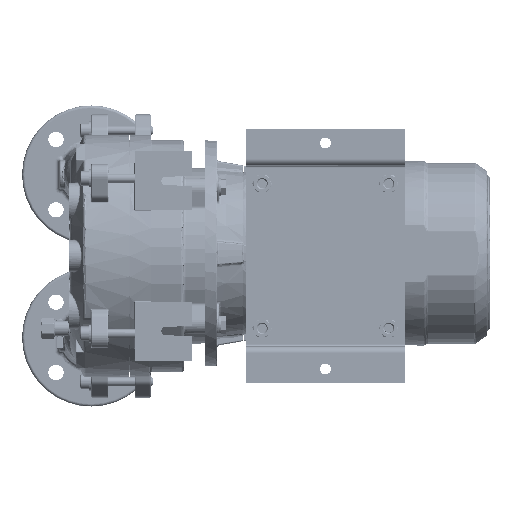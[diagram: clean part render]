
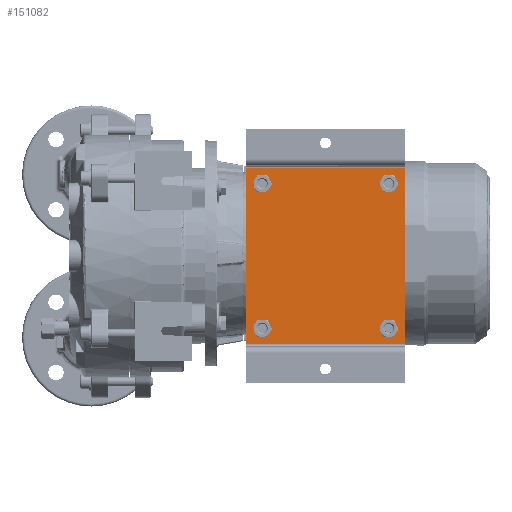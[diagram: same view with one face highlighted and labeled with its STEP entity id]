
A CAD part, front view. The second image highlights one B-rep face of the part: STEP entity #151082.
In plain terms, the highlighted planar face has unit normal (0, -1, 0).
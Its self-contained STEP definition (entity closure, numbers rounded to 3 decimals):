
#2169 = CARTESIAN_POINT ( 'NONE',  ( 296.869, 190.708, 256.745 ) ) ;
#2310 = EDGE_CURVE ( 'NONE', #97581, #25317, #271850, .T. ) ;
#5818 = DIRECTION ( 'NONE',  ( 0., 1., 0. ) ) ;
#5817 = DIRECTION ( 'NONE',  ( 0., 0., -1. ) ) ;
#7146 = CIRCLE ( 'NONE', #34731, 6. ) ;
#9758 = VERTEX_POINT ( 'NONE', #104612 ) ;
#14850 = FACE_BOUND ( 'NONE', #186720, .T. ) ;
#16880 = DIRECTION ( 'NONE',  ( 0., 1., 0. ) ) ;
#21985 = EDGE_CURVE ( 'NONE', #131886, #241626, #145126, .T. ) ;
#22501 = DIRECTION ( 'NONE',  ( -1., 0., 0. ) ) ;
#25195 = AXIS2_PLACEMENT_3D ( 'NONE', #147065, #235103, #210592 ) ;
#25317 = VERTEX_POINT ( 'NONE', #183693 ) ;
#26032 = CARTESIAN_POINT ( 'NONE',  ( 314.87, 190.708, 274.244 ) ) ;
#28199 = DIRECTION ( 'NONE',  ( 0., 1., 0. ) ) ;
#29418 = CARTESIAN_POINT ( 'NONE',  ( 472.869, 190.708, 249.232 ) ) ;
#34731 = AXIS2_PLACEMENT_3D ( 'NONE', #83191, #16880, #217440 ) ;
#35759 = LINE ( 'NONE', #123766, #150401 ) ;
#37167 = DIRECTION ( 'NONE',  ( 1., 0., 0. ) ) ;
#37462 = EDGE_LOOP ( 'NONE', ( #228193, #85665 ) ) ;
#38286 = DIRECTION ( 'NONE',  ( 0., 0., -1. ) ) ;
#39324 = FACE_BOUND ( 'NONE', #37462, .T. ) ;
#40048 = ORIENTED_EDGE ( 'NONE', *, *, #151619, .T. ) ;
#41533 = VERTEX_POINT ( 'NONE', #185353 ) ;
#44746 = CARTESIAN_POINT ( 'NONE',  ( 454.882, 190.708, 434.233 ) ) ;
#46851 = CIRCLE ( 'NONE', #143552, 6. ) ;
#53303 = AXIS2_PLACEMENT_3D ( 'NONE', #67175, #28199, #197228 ) ;
#54477 = AXIS2_PLACEMENT_3D ( 'NONE', #259064, #132047, #38286 ) ;
#55681 = EDGE_LOOP ( 'NONE', ( #88609, #40048 ) ) ;
#56700 = AXIS2_PLACEMENT_3D ( 'NONE', #225221, #5818, #111169 ) ;
#61542 = VERTEX_POINT ( 'NONE', #279280 ) ;
#62917 = LINE ( 'NONE', #64330, #139390 ) ;
#64330 = CARTESIAN_POINT ( 'NONE',  ( 296.869, 190.708, 256.745 ) ) ;
#66349 = DIRECTION ( 'NONE',  ( 0., 1., 0. ) ) ;
#67175 = CARTESIAN_POINT ( 'NONE',  ( 454.87, 190.708, 274.233 ) ) ;
#67646 = AXIS2_PLACEMENT_3D ( 'NONE', #164594, #121190, #252608 ) ;
#68707 = EDGE_CURVE ( 'NONE', #212106, #185959, #46851, .T. ) ;
#76318 = VERTEX_POINT ( 'NONE', #124149 ) ;
#77060 = EDGE_CURVE ( 'NONE', #9758, #41533, #240935, .T. ) ;
#81163 = PLANE ( 'NONE',  #151133 ) ;
#82586 = FACE_BOUND ( 'NONE', #55681, .T. ) ;
#83191 = CARTESIAN_POINT ( 'NONE',  ( 454.882, 190.708, 434.233 ) ) ;
#83996 = FACE_OUTER_BOUND ( 'NONE', #150563, .T. ) ;
#85665 = ORIENTED_EDGE ( 'NONE', *, *, #77060, .T. ) ;
#88609 = ORIENTED_EDGE ( 'NONE', *, *, #208692, .T. ) ;
#89001 = EDGE_CURVE ( 'NONE', #25317, #176386, #62917, .T. ) ;
#97581 = VERTEX_POINT ( 'NONE', #139206 ) ;
#99472 = CARTESIAN_POINT ( 'NONE',  ( 454.87, 190.708, 268.233 ) ) ;
#101154 = EDGE_CURVE ( 'NONE', #135550, #176386, #197343, .T. ) ;
#101442 = ORIENTED_EDGE ( 'NONE', *, *, #2310, .F. ) ;
#104612 = CARTESIAN_POINT ( 'NONE',  ( 314.883, 190.708, 440.244 ) ) ;
#107066 = FACE_BOUND ( 'NONE', #221198, .T. ) ;
#108057 = ORIENTED_EDGE ( 'NONE', *, *, #21985, .T. ) ;
#109480 = AXIS2_PLACEMENT_3D ( 'NONE', #26032, #138592, #5817 ) ;
#111169 = DIRECTION ( 'NONE',  ( 0., 0., -1. ) ) ;
#115961 = DIRECTION ( 'NONE',  ( 0., 0., -1. ) ) ;
#117299 = EDGE_CURVE ( 'NONE', #135550, #97581, #35759, .T. ) ;
#119515 = ORIENTED_EDGE ( 'NONE', *, *, #249340, .T. ) ;
#121190 = DIRECTION ( 'NONE',  ( 0., 1., 0. ) ) ;
#123766 = CARTESIAN_POINT ( 'NONE',  ( 296.883, 190.708, 451.745 ) ) ;
#124149 = CARTESIAN_POINT ( 'NONE',  ( 314.871, 190.708, 280.244 ) ) ;
#128785 = CARTESIAN_POINT ( 'NONE',  ( 296.869, 190.708, 249.245 ) ) ;
#129254 = ORIENTED_EDGE ( 'NONE', *, *, #117299, .F. ) ;
#131886 = VERTEX_POINT ( 'NONE', #203998 ) ;
#132047 = DIRECTION ( 'NONE',  ( 0., 1., 0. ) ) ;
#135550 = VERTEX_POINT ( 'NONE', #205278 ) ;
#138592 = DIRECTION ( 'NONE',  ( 0., 1., 0. ) ) ;
#139206 = CARTESIAN_POINT ( 'NONE',  ( 472.883, 190.708, 451.732 ) ) ;
#139390 = VECTOR ( 'NONE', #22501, 1000. ) ;
#143552 = AXIS2_PLACEMENT_3D ( 'NONE', #44746, #66349, #219437 ) ;
#145126 = CIRCLE ( 'NONE', #25195, 6. ) ;
#146221 = DIRECTION ( 'NONE',  ( 0., -1., 0. ) ) ;
#147065 = CARTESIAN_POINT ( 'NONE',  ( 454.87, 190.708, 274.233 ) ) ;
#147599 = VECTOR ( 'NONE', #221792, 1000. ) ;
#148932 = EDGE_CURVE ( 'NONE', #41533, #9758, #215033, .T. ) ;
#150401 = VECTOR ( 'NONE', #37167, 1000. ) ;
#150563 = EDGE_LOOP ( 'NONE', ( #101442, #129254, #156762, #156873 ) ) ;
#151082 = ADVANCED_FACE ( 'NONE', ( #82586, #107066, #39324, #14850, #83996 ), #81163, .T. ) ;
#151133 = AXIS2_PLACEMENT_3D ( 'NONE', #128785, #146221, #193798 ) ;
#151619 = EDGE_CURVE ( 'NONE', #76318, #61542, #178946, .T. ) ;
#155691 = ORIENTED_EDGE ( 'NONE', *, *, #68707, .T. ) ;
#156762 = ORIENTED_EDGE ( 'NONE', *, *, #101154, .T. ) ;
#156873 = ORIENTED_EDGE ( 'NONE', *, *, #89001, .F. ) ;
#163567 = ORIENTED_EDGE ( 'NONE', *, *, #200288, .T. ) ;
#164594 = CARTESIAN_POINT ( 'NONE',  ( 314.882, 190.708, 434.244 ) ) ;
#176386 = VERTEX_POINT ( 'NONE', #2169 ) ;
#178946 = CIRCLE ( 'NONE', #54477, 6. ) ;
#183693 = CARTESIAN_POINT ( 'NONE',  ( 472.869, 190.708, 256.732 ) ) ;
#185353 = CARTESIAN_POINT ( 'NONE',  ( 314.882, 190.708, 428.244 ) ) ;
#185959 = VERTEX_POINT ( 'NONE', #267368 ) ;
#186720 = EDGE_LOOP ( 'NONE', ( #155691, #119515 ) ) ;
#192293 = VECTOR ( 'NONE', #115961, 1000. ) ;
#192594 = CIRCLE ( 'NONE', #109480, 6. ) ;
#193798 = DIRECTION ( 'NONE',  ( 0., 0., 1. ) ) ;
#197228 = DIRECTION ( 'NONE',  ( 0., 0., -1. ) ) ;
#197343 = LINE ( 'NONE', #285289, #147599 ) ;
#200288 = EDGE_CURVE ( 'NONE', #241626, #131886, #219206, .T. ) ;
#203998 = CARTESIAN_POINT ( 'NONE',  ( 454.871, 190.708, 280.233 ) ) ;
#205278 = CARTESIAN_POINT ( 'NONE',  ( 296.883, 190.708, 451.745 ) ) ;
#208692 = EDGE_CURVE ( 'NONE', #61542, #76318, #192594, .T. ) ;
#210592 = DIRECTION ( 'NONE',  ( 0., 0., -1. ) ) ;
#212106 = VERTEX_POINT ( 'NONE', #247824 ) ;
#215033 = CIRCLE ( 'NONE', #67646, 6. ) ;
#217440 = DIRECTION ( 'NONE',  ( 0., 0., -1. ) ) ;
#219206 = CIRCLE ( 'NONE', #53303, 6. ) ;
#219437 = DIRECTION ( 'NONE',  ( 0., 0., -1. ) ) ;
#221198 = EDGE_LOOP ( 'NONE', ( #163567, #108057 ) ) ;
#221792 = DIRECTION ( 'NONE',  ( 0., 0., -1. ) ) ;
#225221 = CARTESIAN_POINT ( 'NONE',  ( 314.882, 190.708, 434.244 ) ) ;
#228193 = ORIENTED_EDGE ( 'NONE', *, *, #148932, .T. ) ;
#235103 = DIRECTION ( 'NONE',  ( 0., 1., 0. ) ) ;
#240935 = CIRCLE ( 'NONE', #56700, 6. ) ;
#241626 = VERTEX_POINT ( 'NONE', #99472 ) ;
#247824 = CARTESIAN_POINT ( 'NONE',  ( 454.882, 190.708, 428.233 ) ) ;
#249340 = EDGE_CURVE ( 'NONE', #185959, #212106, #7146, .T. ) ;
#252608 = DIRECTION ( 'NONE',  ( 0., 0., -1. ) ) ;
#259064 = CARTESIAN_POINT ( 'NONE',  ( 314.87, 190.708, 274.244 ) ) ;
#267368 = CARTESIAN_POINT ( 'NONE',  ( 454.883, 190.708, 440.233 ) ) ;
#271850 = LINE ( 'NONE', #29418, #192293 ) ;
#279280 = CARTESIAN_POINT ( 'NONE',  ( 314.87, 190.708, 268.244 ) ) ;
#285289 = CARTESIAN_POINT ( 'NONE',  ( 296.869, 190.708, 249.245 ) ) ;
